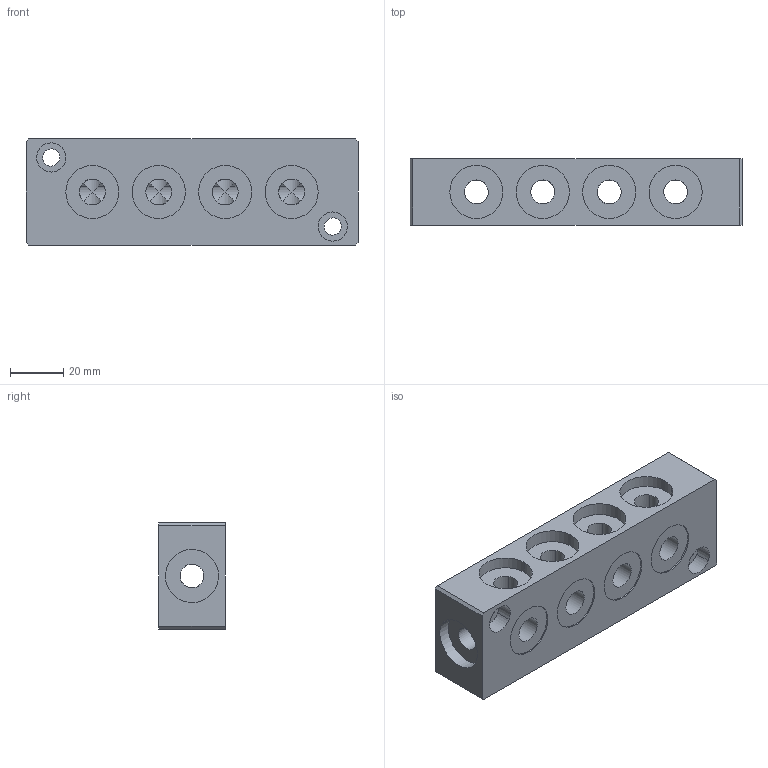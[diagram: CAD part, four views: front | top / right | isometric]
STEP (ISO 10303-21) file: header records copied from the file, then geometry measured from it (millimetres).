
FILE_DESCRIPTION(('FreeCAD Model'),'2;1');
FILE_NAME('Open CASCADE Shape Model','2024-05-31T14:59:32',('Author'),( ''),'Open CASCADE STEP processor 7.6','FreeCAD','Unknown');
FILE_SCHEMA(('AUTOMOTIVE_DESIGN { 1 0 10303 214 1 1 1 1 }'));
Length unit declared in the file: millimetre
Products named in the file (3): Part007; Part006; Cuerpo004
Assembly tree (2 placements, depth 3):
  Part007
    Part006
      Cuerpo004
Bounding box: 125 x 25 x 40 mm (x, y, z)
Volume: 91906.4 mm3; surface area: 27454.6 mm2
Topology: 1 solids, 1 shells, 86 faces, 236 edges, 156 vertices
Faces by surface type: cylinder 60, plane 26
Full cylindrical faces by diameter (mm): 9.72 x4, 20 x6
Entity records: 4178 total; most frequent: CARTESIAN_POINT 1925, ORIENTED_EDGE 472, DIRECTION 430, EDGE_CURVE 236, AXIS2_PLACEMENT_3D 173, VERTEX_POINT 156, FACE_BOUND 120, EDGE_LOOP 120
